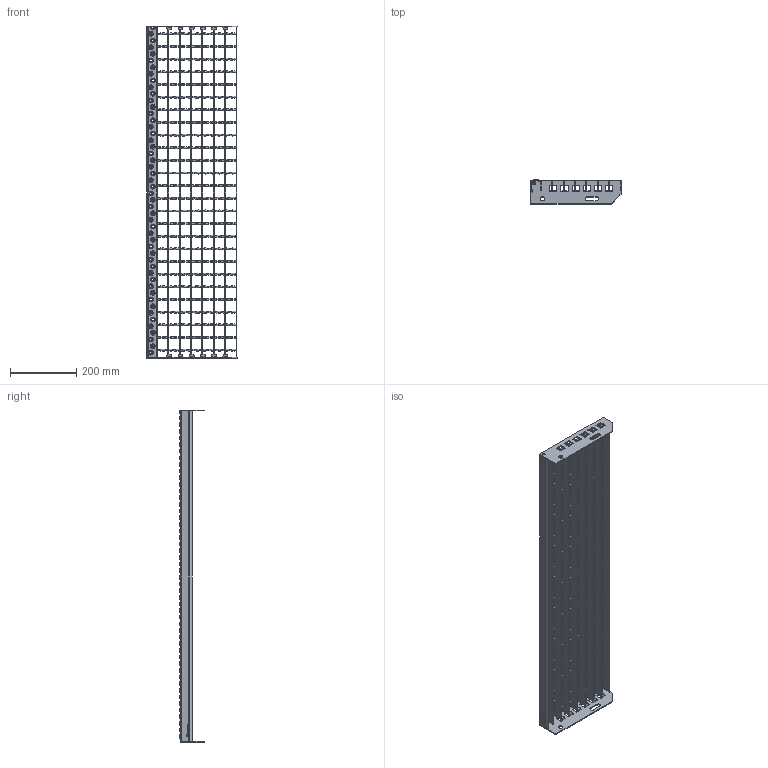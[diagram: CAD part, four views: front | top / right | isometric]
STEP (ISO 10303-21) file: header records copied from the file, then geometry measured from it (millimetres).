
FILE_DESCRIPTION(/* description */ (''),/* implementation_level */ '2;1');
FILE_NAME(/* name */ 'M:\Abteilung\TB\Inventor\Haverkotte\Lager STEP\SP-Stufen\SP 330-34 38-3\SP 330-34 38-3 1000mm x 270mm.stp',/* time_stamp */ '2019-11-14T09:27:03+01:00',/* author */ ('phaverkotte'),/* organization */ (''),/* preprocessor_version */ 'ST-DEVELOPER v17.2',/* originating_system */ 'Autodesk Inventor 2019',/* authorisation */ '');
FILE_SCHEMA (('AUTOMOTIVE_DESIGN { 1 0 10303 214 3 1 1 }'));
Length unit declared in the file: millimetre
Products named in the file (8): Stufe SP; Seitenplatte ausgeklinkt links; Seitenplatte 240 ausgeklinkt extern rechts; Schod nášlap; SP Rošt schodu; Nosny pas; Krouceny drat; Hinteres Flach
Assembly tree (38 placements, depth 3):
  Stufe SP
    Seitenplatte ausgeklinkt links
    Seitenplatte 240 ausgeklinkt extern rechts
    Schod nášlap
    SP Rošt schodu
      Nosny pas  x7
      Krouceny drat  x26
      Hinteres Flach
Bounding box: 271.31 x 72.75 x 1000 mm (x, y, z)
Volume: 1019164.4 mm3; surface area: 829486.9 mm2
Topology: 37 solids, 37 shells, 1234 faces, 3459 edges, 2316 vertices
Faces by surface type: plane 592, cylinder 314, cone 150, bspline 128, torus 50
Full cylindrical faces by diameter (mm): 8 x2, 13 x2
Entity records: 30593 total; most frequent: CARTESIAN_POINT 9427, DIRECTION 4463, ORIENTED_EDGE 4302, EDGE_CURVE 2151, AXIS2_PLACEMENT_3D 1618, VERTEX_POINT 1444, LINE 1227, VECTOR 1227
